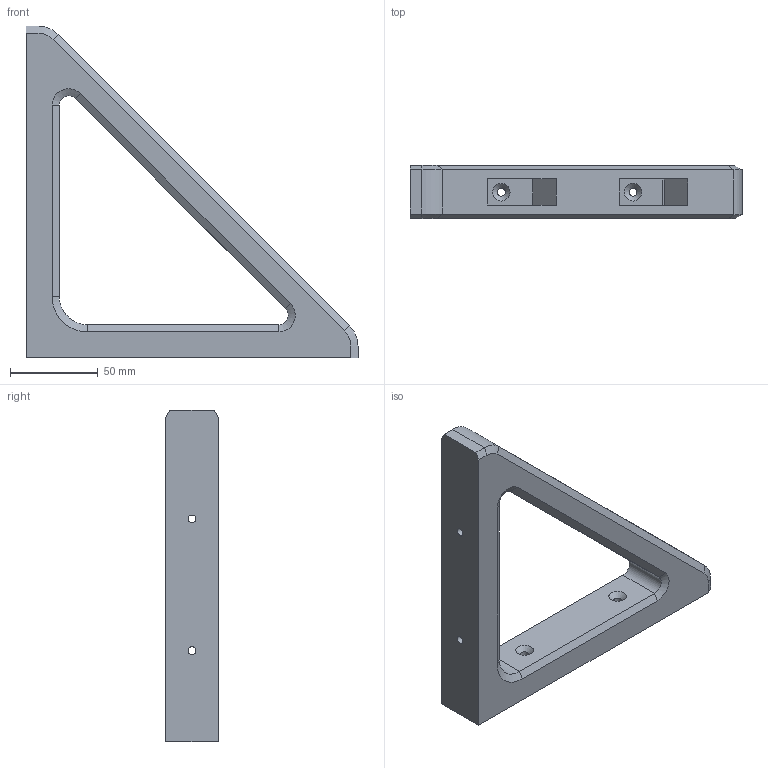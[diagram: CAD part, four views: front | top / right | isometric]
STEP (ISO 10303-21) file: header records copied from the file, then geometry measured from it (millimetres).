
FILE_DESCRIPTION(/* description */ (''),/* implementation_level */ '2;1');
FILE_NAME(/* name */ 'Shelf Bracket - thanks for the download!.step',/* time_stamp */ '2026-04-30T16:02:33+01:00',/* author */ (''),/* organization */ (''),/* preprocessor_version */ 'ST-DEVELOPER v20.1',/* originating_system */ 'Autodesk Translation Framework v15.8.0.0',/* authorisation */ '');
FILE_SCHEMA (('AUTOMOTIVE_DESIGN { 1 0 10303 214 3 1 1 }'));
Length unit declared in the file: millimetre
Products named in the file (1): Bracket heavy duty
Bounding box: 189 x 30 x 189 mm (x, y, z)
Volume: 288371.1 mm3; surface area: 55019.8 mm2
Topology: 1 solids, 1 shells, 53 faces, 129 edges, 78 vertices
Faces by surface type: plane 30, cone 14, cylinder 9
Full cylindrical faces by diameter (mm): 4.5 x4
Entity records: 1591 total; most frequent: DIRECTION 269, CARTESIAN_POINT 261, ORIENTED_EDGE 258, EDGE_CURVE 129, LINE 97, VECTOR 97, AXIS2_PLACEMENT_3D 86, VERTEX_POINT 78
